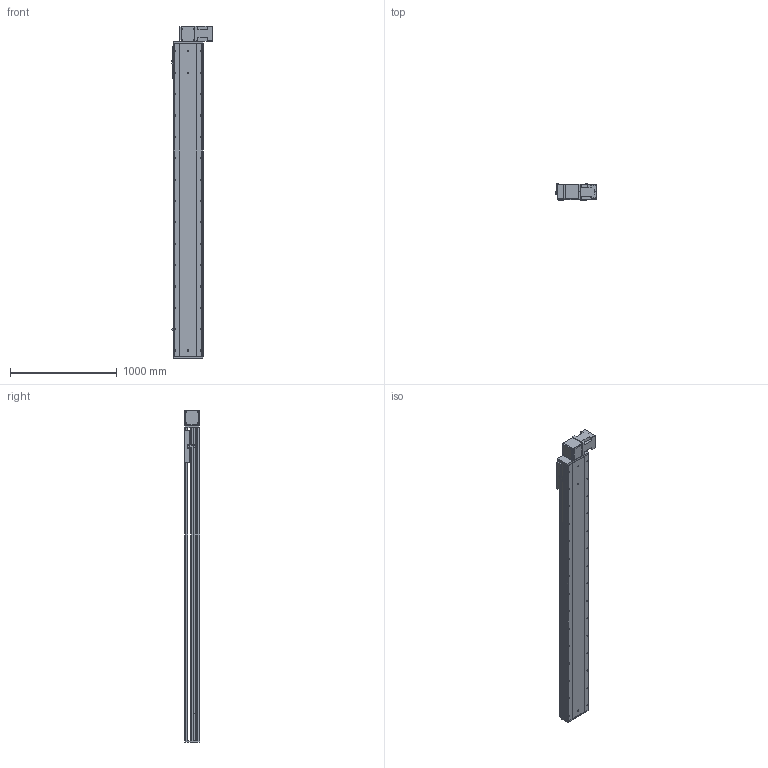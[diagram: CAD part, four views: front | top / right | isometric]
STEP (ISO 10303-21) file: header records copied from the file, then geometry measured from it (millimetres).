
FILE_DESCRIPTION (( 'STEP AP214' ), '1' );
FILE_NAME ('RTB28S-XX-2500-BL-M100-XX-C4.STEP', '2025-12-22T02:31:52', ( '' ), ( '' ), 'SwSTEP 2.0', 'SolidWorks 2018', '' );
FILE_SCHEMA (( 'AUTOMOTIVE_DESIGN' ));
Length unit declared in the file: millimetre
Products named in the file (4): RTB28S-GY-011^RTB28S-XX-XX-BL-M100-XX-C4; RTB28S-XX-2500-BL-M100-XX-C4; RTB28S-GY-004^RTB28S-XX-XX-BL-M100-XX-C4; RTB28S-GY-008^RTB28S-XX-XX-BL-M100-XX-C4
Assembly tree (3 placements, depth 2):
  RTB28S-XX-2500-BL-M100-XX-C4
    RTB28S-GY-011^RTB28S-XX-XX-BL-M100-XX-C4
    RTB28S-GY-004^RTB28S-XX-XX-BL-M100-XX-C4
    RTB28S-GY-008^RTB28S-XX-XX-BL-M100-XX-C4
Bounding box: 380.7 x 145 x 3107 mm (x, y, z)
Volume: 53242242.6 mm3; surface area: 4991698.2 mm2
Topology: 3 solids, 4 shells, 858 faces, 2298 edges, 1468 vertices
Faces by surface type: cylinder 415, plane 359, cone 80, torus 4
Entity records: 32915 total; most frequent: CARTESIAN_POINT 6052, DIRECTION 4884, ORIENTED_EDGE 4532, EDGE_CURVE 2266, AXIS2_PLACEMENT_3D 1792, VERTEX_POINT 1468, VECTOR 1300, LINE 1300
